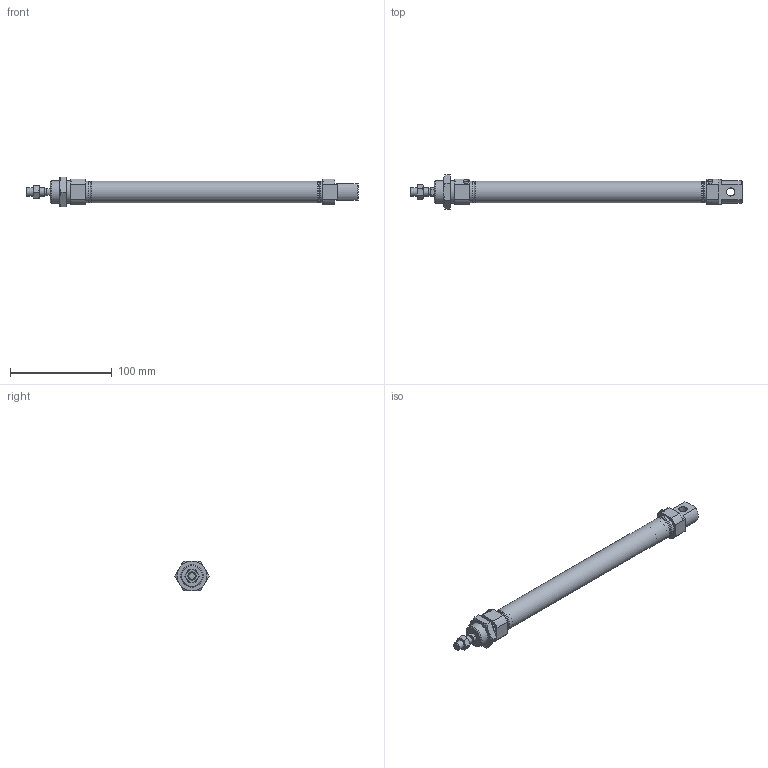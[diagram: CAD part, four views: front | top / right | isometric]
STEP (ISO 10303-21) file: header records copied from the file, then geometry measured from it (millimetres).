
FILE_DESCRIPTION( ( 'STEP AP214' ), '1' );
FILE_NAME( 'C:/Users/emc02044/Desktop/IA IAC/IAC20X200-S.stp', '2026-07-20T10:28:40', ( 'License CC BY-ND 4.0' ), ( 'CADENAS' ), ' ', 'PARTsolutions', ' ' );
FILE_SCHEMA( ( 'AUTOMOTIVE_DESIGN { 1 0 10303 214 1 1 1 1 }' ) );
Length unit declared in the file: millimetre
Products named in the file (3): IAC20X200-0-S()(0); _C20X200-CA-S()_ia_body; _C20X200-0_rod
Assembly tree (2 placements, depth 2):
  IAC20X200-0-S()(0)
    _C20X200-CA-S()_ia_body
    _C20X200-0_rod
Bounding box: 326 x 33.49 x 29 mm (x, y, z)
Volume: 63597.4 mm3; surface area: 48159.9 mm2
Topology: 2 solids, 2 shells, 148 faces, 341 edges, 216 vertices
Faces by surface type: plane 63, cone 47, cylinder 32, torus 6
Full cylindrical faces by diameter (mm): 2 x1, 4.5 x2, 5 x2, 7.2 x1, 8 x6, 8.566 x2, 20 x2, 21.5 x3, 22 x2, 28 x1
Entity records: 5484 total; most frequent: CARTESIAN_POINT 1117, DIRECTION 644, ORIENTED_EDGE 604, EDGE_CURVE 302, AXIS2_PLACEMENT_3D 277, VERTEX_POINT 210, EDGE_LOOP 202, FACE_OUTER_BOUND 176
